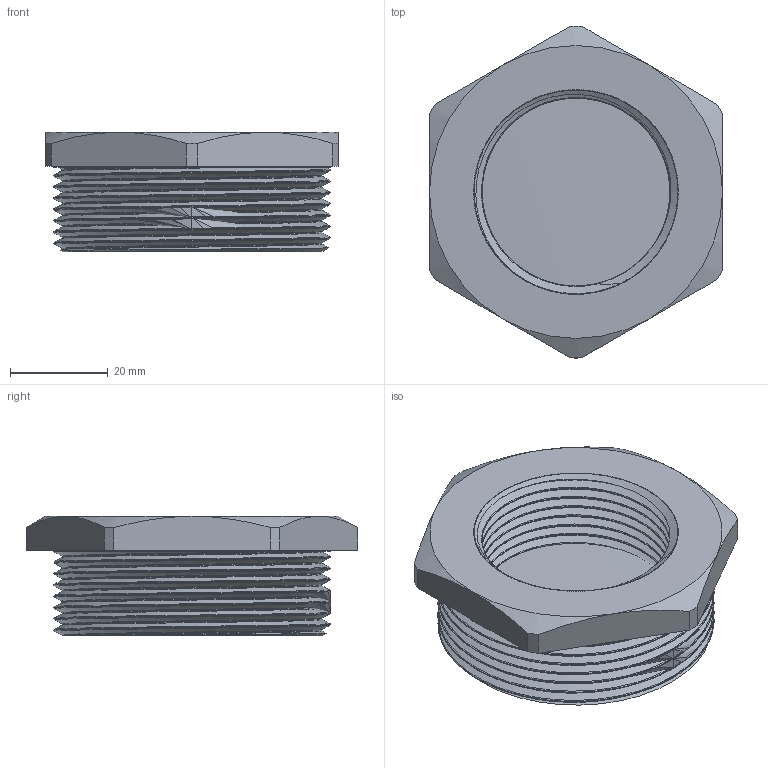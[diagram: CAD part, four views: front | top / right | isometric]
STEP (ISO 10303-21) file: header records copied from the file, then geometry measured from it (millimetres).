
FILE_DESCRIPTION(/* description */ (''),/* implementation_level */ '2;1');
FILE_NAME(/* name */ 'C:\Users\Doom\Desktop\Фадотех\Резьба\PF13 18.03.2020\PF13 18.03.2020.stp',/* time_stamp */ '2022-01-16T00:17:24+02:00',/* author */ ('Doom'),/* organization */ (''),/* preprocessor_version */ 'ST-DEVELOPER v18',/* originating_system */ 'Autodesk Inventor 2020',/* authorisation */ '');
FILE_SCHEMA (('AUTOMOTIVE_DESIGN { 1 0 10303 214 3 1 1 }'));
Length unit declared in the file: millimetre
Products named in the file (1): PF13 18.03.2020
Bounding box: 60 x 68 x 24.5 mm (x, y, z)
Volume: 41257.2 mm3; surface area: 29596.9 mm2
Topology: 3 solids, 3 shells, 68 faces, 179 edges, 118 vertices
Faces by surface type: cylinder 33, plane 14, bspline 12, cone 9
Full cylindrical faces by diameter (mm): 38.486 x10, 41.91 x2, 53.176 x2, 56.6 x9
Entity records: 12102 total; most frequent: CARTESIAN_POINT 10561, ORIENTED_EDGE 354, DIRECTION 245, EDGE_CURVE 177, VERTEX_POINT 117, AXIS2_PLACEMENT_3D 101, B_SPLINE_CURVE_WITH_KNOTS 78, EDGE_LOOP 76
